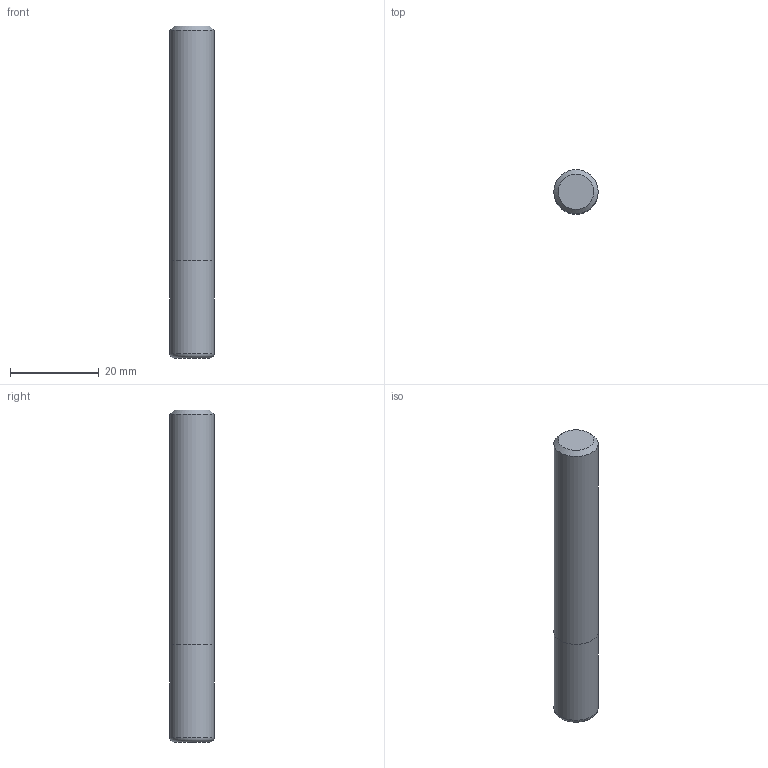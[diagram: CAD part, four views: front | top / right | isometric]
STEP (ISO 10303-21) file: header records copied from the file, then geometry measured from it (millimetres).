
FILE_DESCRIPTION((''),'2;1');
FILE_NAME('C:\Users\nsx150\AppData\Local\Temp\Mastercam 2021\0KY4AY0TVG\TEMP.step','2021-10-21T14:42:02',(''),(''),'STEP Write','Mastercam 2021 ... CNC Software, Inc.','');
FILE_SCHEMA(('AUTOMOTIVE_DESIGN'));
Length unit declared in the file: millimetre
Products named in the file (1): None
Bounding box: 10 x 10 x 75 mm (x, y, z)
Volume: 5869.4 mm3; surface area: 2636.7 mm2
Topology: 2 solids, 2 shells, 8 faces, 10 edges, 6 vertices
Faces by surface type: plane 4, cylinder 2, torus 1, cone 1
Full cylindrical faces by diameter (mm): 10 x2
Entity records: 190 total; most frequent: DIRECTION 32, CARTESIAN_POINT 22, AXIS2_PLACEMENT_3D 16, ORIENTED_EDGE 12, EDGE_LOOP 12, STYLED_ITEM 11, ADVANCED_FACE 8, FACE_BOUND 7
